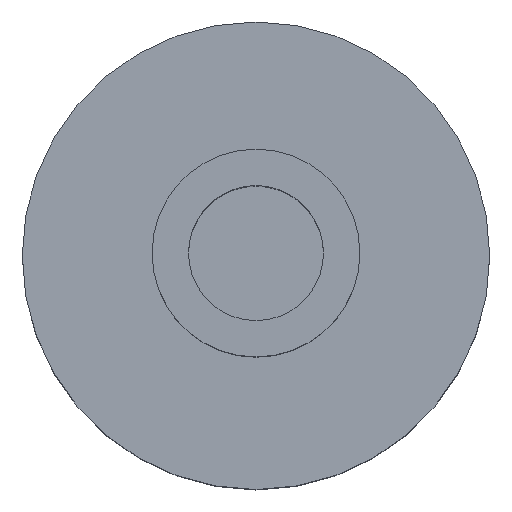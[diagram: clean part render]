
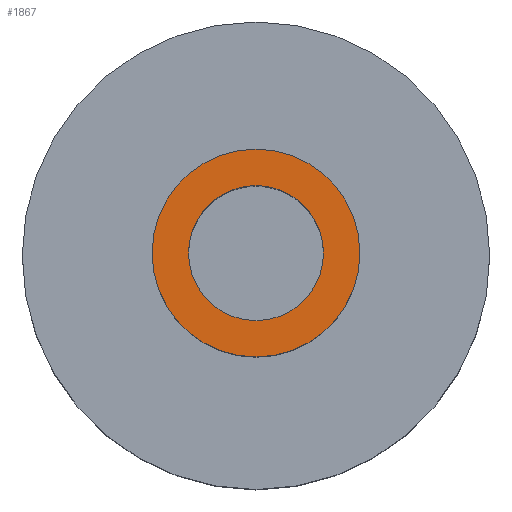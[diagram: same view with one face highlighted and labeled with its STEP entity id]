
A CAD part, top view. The second image highlights one B-rep face of the part: STEP entity #1867.
In plain terms, the highlighted planar face has unit normal (0, 0, 1).
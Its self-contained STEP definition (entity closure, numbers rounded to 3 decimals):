
#1801 = CYLINDRICAL_SURFACE('',#1802,10.);
#1802 = AXIS2_PLACEMENT_3D('',#1803,#1804,#1805);
#1803 = CARTESIAN_POINT('',(0.,0.,166.));
#1804 = DIRECTION('',(0.,0.,1.));
#1805 = DIRECTION('',(1.,0.,-0.));
#1818 = VERTEX_POINT('',#1819);
#1819 = CARTESIAN_POINT('',(10.,0.,182.));
#1840 = EDGE_CURVE('',#1818,#1818,#1841,.T.);
#1841 = SURFACE_CURVE('',#1842,(#1847,#1854),.PCURVE_S1.);
#1842 = CIRCLE('',#1843,10.);
#1843 = AXIS2_PLACEMENT_3D('',#1844,#1845,#1846);
#1844 = CARTESIAN_POINT('',(0.,0.,182.));
#1845 = DIRECTION('',(0.,0.,1.));
#1846 = DIRECTION('',(1.,0.,-0.));
#1847 = PCURVE('',#1801,#1848);
#1848 = DEFINITIONAL_REPRESENTATION('',(#1849),#1853);
#1849 = LINE('',#1850,#1851);
#1850 = CARTESIAN_POINT('',(0.,16.));
#1851 = VECTOR('',#1852,1.);
#1852 = DIRECTION('',(1.,0.));
#1853 = ( GEOMETRIC_REPRESENTATION_CONTEXT(2) 
PARAMETRIC_REPRESENTATION_CONTEXT() REPRESENTATION_CONTEXT('2D SPACE',''
  ) );
#1854 = PCURVE('',#1855,#1860);
#1855 = PLANE('',#1856);
#1856 = AXIS2_PLACEMENT_3D('',#1857,#1858,#1859);
#1857 = CARTESIAN_POINT('',(0.,0.,182.));
#1858 = DIRECTION('',(0.,0.,1.));
#1859 = DIRECTION('',(1.,0.,-0.));
#1860 = DEFINITIONAL_REPRESENTATION('',(#1861),#1865);
#1861 = CIRCLE('',#1862,10.);
#1862 = AXIS2_PLACEMENT_2D('',#1863,#1864);
#1863 = CARTESIAN_POINT('',(0.,0.));
#1864 = DIRECTION('',(1.,0.));
#1865 = ( GEOMETRIC_REPRESENTATION_CONTEXT(2) 
PARAMETRIC_REPRESENTATION_CONTEXT() REPRESENTATION_CONTEXT('2D SPACE',''
  ) );
#1867 = ADVANCED_FACE('',(#1868,#1871),#1855,.T.);
#1868 = FACE_BOUND('',#1869,.T.);
#1869 = EDGE_LOOP('',(#1870));
#1870 = ORIENTED_EDGE('',*,*,#1840,.T.);
#1871 = FACE_BOUND('',#1872,.T.);
#1872 = EDGE_LOOP('',(#1873));
#1873 = ORIENTED_EDGE('',*,*,#1874,.F.);
#1874 = EDGE_CURVE('',#1875,#1875,#1877,.T.);
#1875 = VERTEX_POINT('',#1876);
#1876 = CARTESIAN_POINT('',(6.5,0.,182.));
#1877 = SURFACE_CURVE('',#1878,(#1883,#1890),.PCURVE_S1.);
#1878 = CIRCLE('',#1879,6.5);
#1879 = AXIS2_PLACEMENT_3D('',#1880,#1881,#1882);
#1880 = CARTESIAN_POINT('',(0.,0.,182.));
#1881 = DIRECTION('',(0.,0.,1.));
#1882 = DIRECTION('',(1.,0.,-0.));
#1883 = PCURVE('',#1855,#1884);
#1884 = DEFINITIONAL_REPRESENTATION('',(#1885),#1889);
#1885 = CIRCLE('',#1886,6.5);
#1886 = AXIS2_PLACEMENT_2D('',#1887,#1888);
#1887 = CARTESIAN_POINT('',(0.,0.));
#1888 = DIRECTION('',(1.,0.));
#1889 = ( GEOMETRIC_REPRESENTATION_CONTEXT(2) 
PARAMETRIC_REPRESENTATION_CONTEXT() REPRESENTATION_CONTEXT('2D SPACE',''
  ) );
#1890 = PCURVE('',#1891,#1896);
#1891 = CYLINDRICAL_SURFACE('',#1892,6.5);
#1892 = AXIS2_PLACEMENT_3D('',#1893,#1894,#1895);
#1893 = CARTESIAN_POINT('',(0.,0.,182.));
#1894 = DIRECTION('',(-0.,-0.,-1.));
#1895 = DIRECTION('',(1.,0.,0.));
#1896 = DEFINITIONAL_REPRESENTATION('',(#1897),#1901);
#1897 = LINE('',#1898,#1899);
#1898 = CARTESIAN_POINT('',(-0.,0.));
#1899 = VECTOR('',#1900,1.);
#1900 = DIRECTION('',(-1.,0.));
#1901 = ( GEOMETRIC_REPRESENTATION_CONTEXT(2) 
PARAMETRIC_REPRESENTATION_CONTEXT() REPRESENTATION_CONTEXT('2D SPACE',''
  ) );
